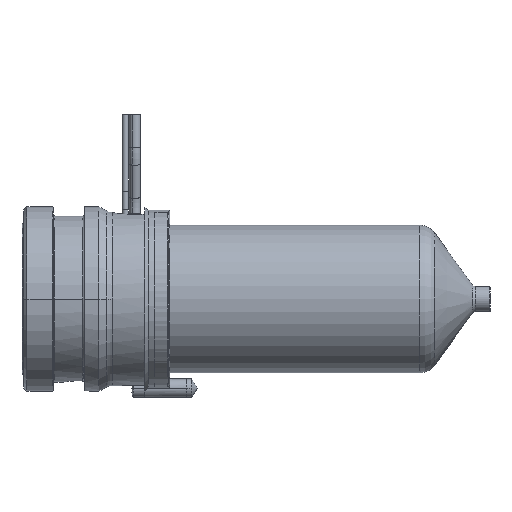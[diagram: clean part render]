
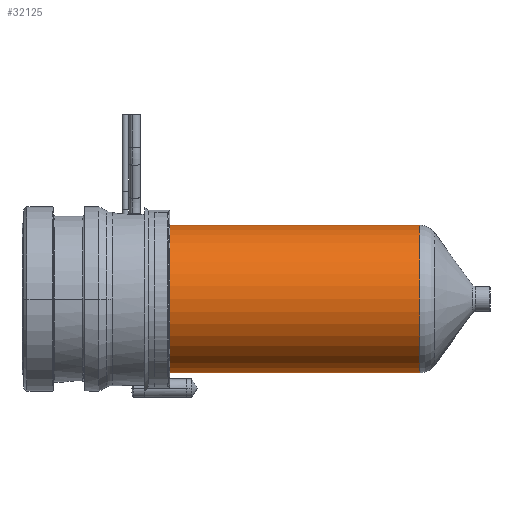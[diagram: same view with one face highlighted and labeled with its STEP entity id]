
A CAD part, left-side view. The second image highlights one B-rep face of the part: STEP entity #32125.
In plain terms, the highlighted cylindrical face has radius 12 mm (diameter 24 mm), a partial arc.
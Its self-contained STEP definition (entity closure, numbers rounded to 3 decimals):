
#31770=CARTESIAN_POINT('',(0.,-24.,0.));
#31771=DIRECTION('',(0.,1.,0.));
#31772=DIRECTION('',(0.,0.,-1.));
#31773=AXIS2_PLACEMENT_3D('',#31770,#31771,#31772);
#31778=DIRECTION('',(0.,1.,0.));
#31779=VECTOR('',#31778,40.671);
#31780=CARTESIAN_POINT('',(0.,-64.671,12.));
#31781=LINE('',#31780,#31779);
#31793=DIRECTION('',(0.,1.,0.));
#31794=VECTOR('',#31793,40.671);
#31795=CARTESIAN_POINT('',(0.,-64.671,-12.));
#31796=LINE('',#31795,#31794);
#31824=CARTESIAN_POINT('',(0.,-64.671,0.));
#31825=DIRECTION('',(0.,-1.,0.));
#31826=DIRECTION('',(0.,0.,1.));
#31827=AXIS2_PLACEMENT_3D('',#31824,#31825,#31826);
#32014=CARTESIAN_POINT('',(0.,-64.671,12.));
#32015=CARTESIAN_POINT('',(0.,-24.,12.));
#32016=VERTEX_POINT('',#32014);
#32017=VERTEX_POINT('',#32015);
#32022=CARTESIAN_POINT('',(0.,-64.671,-12.));
#32023=CARTESIAN_POINT('',(0.,-24.,-12.));
#32024=VERTEX_POINT('',#32022);
#32025=VERTEX_POINT('',#32023);
#32111=CARTESIAN_POINT('',(0.,-17.2,0.));
#32112=DIRECTION('',(0.,-1.,0.));
#32113=DIRECTION('',(0.,0.,1.));
#32114=AXIS2_PLACEMENT_3D('',#32111,#32112,#32113);
#32115=CYLINDRICAL_SURFACE('',#32114,12.);
#32117=ORIENTED_EDGE('',*,*,#32116,.F.);
#32119=ORIENTED_EDGE('',*,*,#32118,.T.);
#32121=ORIENTED_EDGE('',*,*,#32120,.T.);
#32122=ORIENTED_EDGE('',*,*,#32104,.T.);
#32123=EDGE_LOOP('',(#32117,#32119,#32121,#32122));
#32124=FACE_OUTER_BOUND('',#32123,.F.);
#32125=ADVANCED_FACE('',(#32124),#32115,.T.);
#31774=CIRCLE('',#31773,12.);
#31828=CIRCLE('',#31827,12.);
#32104=EDGE_CURVE('',#32025,#32017,#31774,.T.);
#32116=EDGE_CURVE('',#32016,#32017,#31781,.T.);
#32118=EDGE_CURVE('',#32016,#32024,#31828,.T.);
#32120=EDGE_CURVE('',#32024,#32025,#31796,.T.);
